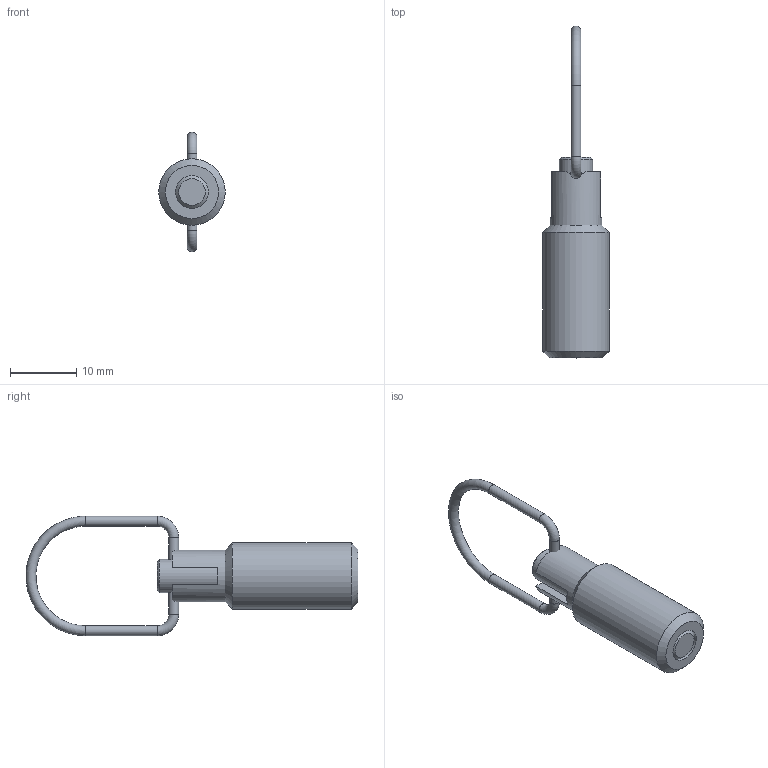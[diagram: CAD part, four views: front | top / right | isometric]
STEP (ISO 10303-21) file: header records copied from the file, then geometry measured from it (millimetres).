
FILE_DESCRIPTION( ( 'STEP AP203' ), '1' );
FILE_NAME( 'C:/Temp/Ganter_Step_05_03_2020/data/3_1/gn_413/gn413_st/gn413_st_c/Steel-Indexing plunger GN 413-5-M10x1-C-ST (activated).stp', '2020-03-12T09:10:37', ( 'License CC BY-ND 4.0' ), ( 'CADENAS' ), ' ', 'PARTsolutions', ' ' );
FILE_SCHEMA( ( 'CONFIG_CONTROL_DESIGN' ) );
Length unit declared in the file: millimetre
Products named in the file (3): Steel-Indexing plunger GN 413-5-M10x1-C-ST (activated); _Steel-Indexing plunger  GN 413-5-M10x1-C-ST (activated)_f; _Steel-Indexing plunger GN 413-5-M10x1-C-ST (activated)_b
Assembly tree (2 placements, depth 2):
  Steel-Indexing plunger GN 413-5-M10x1-C-ST (activated)
    _Steel-Indexing plunger  GN 413-5-M10x1-C-ST (activated)_f
    _Steel-Indexing plunger GN 413-5-M10x1-C-ST (activated)_b
Bounding box: 10 x 49.98 x 18 mm (x, y, z)
Volume: 1915.8 mm3; surface area: 2201.3 mm2
Topology: 2 solids, 2 shells, 42 faces, 93 edges, 58 vertices
Faces by surface type: plane 17, cylinder 15, cone 7, torus 3
Full cylindrical faces by diameter (mm): 1.5 x4, 5 x4, 5.3 x1, 6.5 x2, 7.8 x1, 10 x1
Entity records: 1216 total; most frequent: CARTESIAN_POINT 275, DIRECTION 188, ORIENTED_EDGE 130, AXIS2_PLACEMENT_3D 84, EDGE_LOOP 72, EDGE_CURVE 65, FACE_OUTER_BOUND 58, VERTEX_POINT 53
